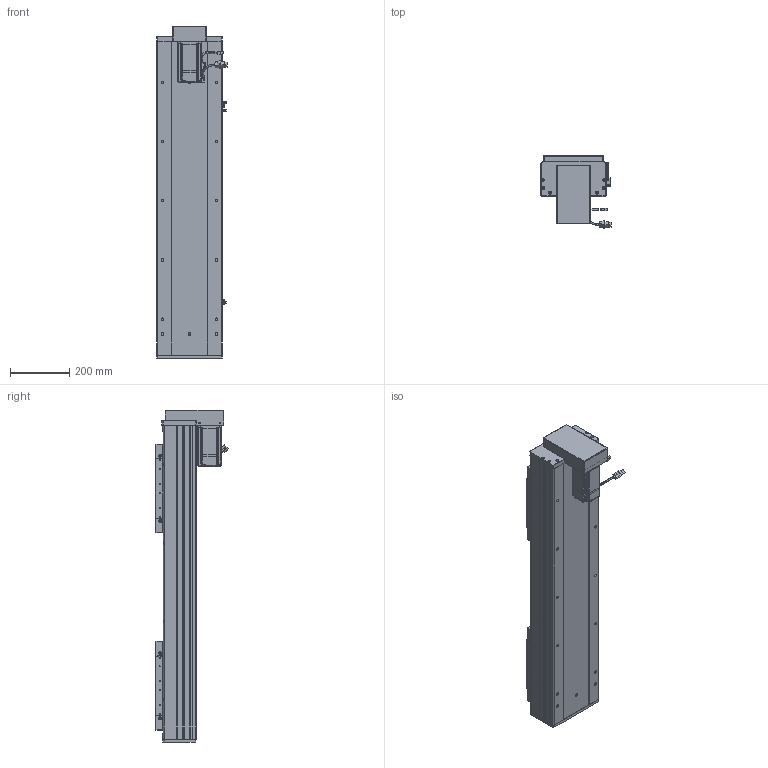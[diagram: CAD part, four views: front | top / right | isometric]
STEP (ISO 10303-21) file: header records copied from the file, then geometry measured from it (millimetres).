
FILE_DESCRIPTION (( 'STEP AP203' ), '1' );
FILE_NAME ('RY220F-L2525-300-BK.SLDASM_650.step', '2022-07-04T01:20:34', ( '' ), ( '' ), 'SwSTEP 2.0', 'SolidWorks 2016', '' );
FILE_SCHEMA (( 'CONFIG_CONTROL_DESIGN' ));
Length unit declared in the file: millimetre
Products named in the file (15): RY220狟殏萇儂欶; RY220F臏賑釱25-32佪裝; RY220F蛌殏菁釱-300_650; RY220F-祥凄詩湍-蛌殏-300_650; 滅袉蝶18-24; RY220F-672覜茼んえ; RY220F綴裔啣; RY220F-L2525-300-BK.SLDASM_650; RY220狟殏萇儂假蚾啣; RY220F-蛌殏奻裔啣-300_650; 怢湛750W_ECMA-CX0807ES; 侐源滅袉蝶; RY220F-詩湍揤踡輸; 覜茼ん672; RY220F-滅鳥奻裔
Assembly tree (24 placements, depth 2):
  RY220F-L2525-300-BK.SLDASM_650
    RY220F蛌殏菁釱-300_650
    RY220F-蛌殏奻裔啣-300_650  x2
    怢湛750W_ECMA-CX0807ES
    RY220F臏賑釱25-32佪裝  x2
    RY220F-滅鳥奻裔  x2
    滅袉蝶18-24  x3
    RY220F綴裔啣
    RY220F-祥凄詩湍-蛌殏-300_650
    RY220F-詩湍揤踡輸  x2
    覜茼ん672  x3
    RY220F-672覜茼んえ  x2
    侐源滅袉蝶  x2
    RY220狟殏萇儂假蚾啣
    RY220狟殏萇儂欶
Bounding box: 237.27 x 247.24 x 1121 mm (x, y, z)
Volume: 12109979.9 mm3; surface area: 3067628 mm2
Topology: 25 solids, 25 shells, 2703 faces, 7358 edges, 4569 vertices
Faces by surface type: cylinder 1194, plane 1062, cone 376, bspline 45, sphere 16, torus 10
Entity records: 66849 total; most frequent: CARTESIAN_POINT 18363, ORIENTED_EDGE 9834, DIRECTION 9457, EDGE_CURVE 4917, AXIS2_PLACEMENT_3D 3330, VERTEX_POINT 3185, VECTOR 2797, LINE 2797
